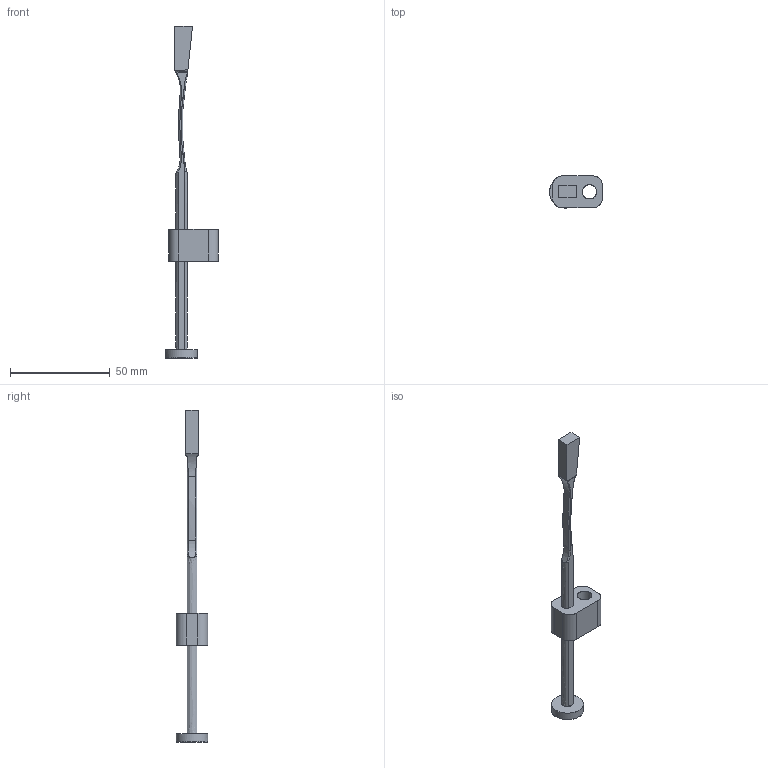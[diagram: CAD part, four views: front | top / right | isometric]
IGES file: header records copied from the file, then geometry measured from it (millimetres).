
Start section: VISI Layer Mapping Iges    VISI  0      LAYER0  1      WARNINGS
Global section: file name: G:\Produktkommunikation\Support\CD-Online-Katalog\3D Daten Produkte\E3200\E3200_6_9,0_162.igs; native system: VISI 20.0; preprocessor: 2.0; author: NUS; organization: Unknown; date: 20130529.090038; units: millimetre
Bounding box: 26.5 x 16 x 166 mm (x, y, z)
Surface area: 6637.2 mm2 (no closed solid volume)
Topology: 0 solids, 0 shells, 72 faces, 591 edges, 573 vertices
Faces by surface type: bspline 72
